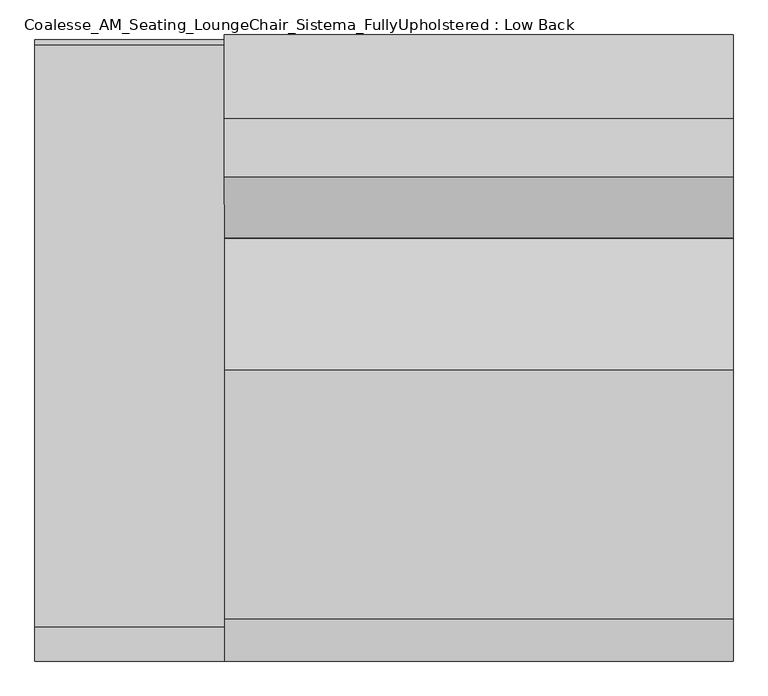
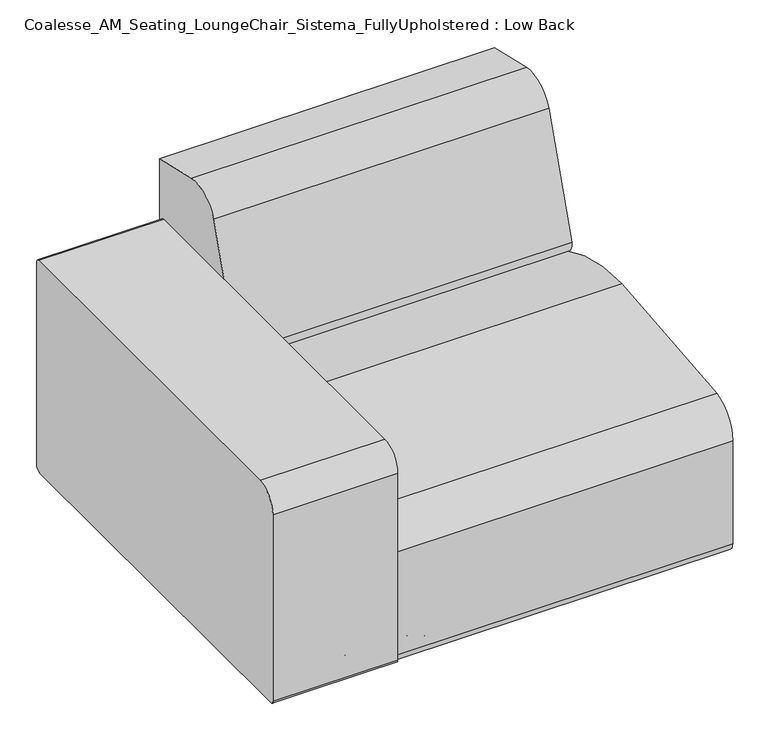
"""IFC4 building model written with IfcOpenShell, lengths in millimetres: furniture geometry, Coalesse_AM_Seating_LoungeChair_Sistema_FullyUpholstered : Low Back."""

from ifc_helpers import new_model, si_unit, point, frame, frame_2d, origin, place, context, project, spatial, polyline, circle_curve, ellipse_curve, trimmed, segment, composite_curve, outline, extrude, source, transform, mapped, element, save
from ifc_brep_helpers import plane_surface, cylinder_surface, revolved_surface, advanced_brep


def coalesse_am_seating_loungechair_sistema_fullyupholstered_low_7b113572(model_context):
    return source(origin(), model_context, "Body", "SolidModel", [
        advanced_brep(
        [(-556.537836, -359.8402281, 16.5557542), (-592.8114456, -359.8402281, 16.5557542), (-592.8114456, -359.8402281, 32.0111214), (-556.537836, -359.8402281, 32.0111214), (-555.2441555, -359.8402281, 14.0167632), (-594.1051261, -359.8402281, 14.0167632), (-550.8721692, -359.8402281, 10.8824382), (-598.4771123, -359.8402281, 10.8824382), (-549.6859529, -359.8402281, 8.4680454), (-599.6633287, -359.8402281, 8.4680454), (-549.6859529, -359.8402281, 3.1081764), (-599.6633287, -359.8402281, 3.1081764), (-553.2823275, -359.8402281, 0.0), (-596.0669541, -359.8402281, 0.0), (-574.6746408, -359.8402281, 0.0), (-567.5598618, -359.8402281, 34.4679682), (-581.7894198, -359.8402281, 34.4679682), (-574.6746408, -359.8402281, 34.4679682), (-567.5598618, -359.8402281, 32.0111214), (-581.7894198, -359.8402281, 32.0111214)],
        [
            (0, 1, circle_curve(frame((-574.6746408, -359.8402281, 16.5557542), z_axis=(0.0, 0.0, 1.0), x_axis=(-1.0, 0.0, 0.0)), 18.1368048)),
            (1, 2),
            (2, 3, circle_curve(frame((-574.6746408, -359.8402281, 32.0111214), z_axis=(0.0, 0.0, -1.0), x_axis=(-1.0, 0.0, 0.0)), 18.1368048)),
            (3, 0),
            (1, 0, circle_curve(frame((-574.6746408, -359.8402281, 16.5557542), z_axis=(0.0, 0.0, 1.0), x_axis=(-1.0, 0.0, 0.0)), 18.1368048)),
            (3, 2, circle_curve(frame((-574.6746408, -359.8402281, 32.0111214), z_axis=(0.0, 0.0, -1.0), x_axis=(-1.0, 0.0, 0.0)), 18.1368048)),
            (4, 5, circle_curve(frame((-574.6746408, -359.8402281, 14.0167632), z_axis=(0.0, 0.0, 1.0), x_axis=(-1.0, 0.0, 0.0)), 19.4304853)),
            (5, 1),
            (0, 4),
            (5, 4, circle_curve(frame((-574.6746408, -359.8402281, 14.0167632), z_axis=(0.0, 0.0, 1.0), x_axis=(-1.0, 0.0, 0.0)), 19.4304853)),
            (6, 7, circle_curve(frame((-574.6746408, -359.8402281, 10.8824382), z_axis=(0.0, 0.0, 1.0), x_axis=(-1.0, 0.0, 0.0)), 23.8024715)),
            (7, 5, circle_curve(frame((-552.1231557, -359.8402281, -49.1591113), z_axis=(0.0, 1.0, 0.0), x_axis=(1.0, 0.0, 0.0)), 75.8529957)),
            (4, 6, circle_curve(frame((-597.2261258, -359.8402281, -49.1591113), z_axis=(0.0, 1.0, 0.0), x_axis=(-1.0, 0.0, 0.0)), 75.8529957)),
            (7, 6, circle_curve(frame((-574.6746408, -359.8402281, 10.8824382), z_axis=(0.0, 0.0, 1.0), x_axis=(-1.0, 0.0, 0.0)), 23.8024715)),
            (8, 9, circle_curve(frame((-574.6746408, -359.8402281, 8.4680454), z_axis=(0.0, 0.0, 1.0), x_axis=(-1.0, 0.0, 0.0)), 24.9886879)),
            (9, 7, circle_curve(frame((-596.6131255, -359.8402281, 8.4680454), z_axis=(0.0, 1.0, 0.0), x_axis=(1.0, 0.0, 0.0)), 3.0502032)),
            (6, 8, circle_curve(frame((-552.7361561, -359.8402281, 8.4680454), z_axis=(0.0, 1.0, 0.0), x_axis=(-1.0, 0.0, 0.0)), 3.0502032)),
            (9, 8, circle_curve(frame((-574.6746408, -359.8402281, 8.4680454), z_axis=(0.0, 0.0, 1.0), x_axis=(-1.0, 0.0, 0.0)), 24.9886879)),
            (10, 11, circle_curve(frame((-574.6746408, -359.8402281, 3.1081764), z_axis=(0.0, 0.0, 1.0), x_axis=(-1.0, 0.0, 0.0)), 24.9886879)),
            (11, 9),
            (8, 10),
            (11, 10, circle_curve(frame((-574.6746408, -359.8402281, 3.1081764), z_axis=(0.0, 0.0, 1.0), x_axis=(-1.0, 0.0, 0.0)), 24.9886879)),
            (12, 13, circle_curve(frame((-574.6746408, -359.8402281, 0.0), z_axis=(0.0, 0.0, 1.0), x_axis=(-1.0, 0.0, 0.0)), 21.3923133)),
            (13, 11, circle_curve(frame((-596.0669541, -359.8402281, 3.634715), z_axis=(0.0, 1.0, 0.0), x_axis=(1.0, 0.0, 0.0)), 3.634715)),
            (10, 12, circle_curve(frame((-553.2823275, -359.8402281, 3.634715), z_axis=(0.0, 1.0, 0.0), x_axis=(-1.0, 0.0, 0.0)), 3.634715)),
            (13, 12, circle_curve(frame((-574.6746408, -359.8402281, 0.0), z_axis=(0.0, 0.0, 1.0), x_axis=(-1.0, 0.0, 0.0)), 21.3923133)),
            (14, 13),
            (12, 14),
            (15, 16, circle_curve(frame((-574.6746408, -359.8402281, 34.4679682), z_axis=(0.0, 0.0, 1.0), x_axis=(-1.0, 0.0, 0.0)), 7.114779)),
            (16, 17),
            (17, 15),
            (16, 15, circle_curve(frame((-574.6746408, -359.8402281, 34.4679682), z_axis=(0.0, 0.0, 1.0), x_axis=(-1.0, 0.0, 0.0)), 7.114779)),
            (18, 19, circle_curve(frame((-574.6746408, -359.8402281, 32.0111214), z_axis=(0.0, 0.0, 1.0), x_axis=(-1.0, 0.0, 0.0)), 7.114779)),
            (19, 16),
            (15, 18),
            (19, 18, circle_curve(frame((-574.6746408, -359.8402281, 32.0111214), z_axis=(0.0, 0.0, 1.0), x_axis=(-1.0, 0.0, 0.0)), 7.114779)),
            (2, 19),
            (18, 3),
        ],
        [
            cylinder_surface(frame((-574.6746408, -359.8402281, 22.0491407), z_axis=(0.0, 0.0, -1.0), x_axis=(-1.0, 0.0, 0.0)), 18.1368048),
            revolved_surface(polyline([(-592.8114456, -359.8402281, 16.5557542), (-594.1051261, -359.8402281, 14.0167632)]), (-574.6746408, -359.8402281, 22.0491407), (0.0, 0.0, -1.0)),
            revolved_surface(trimmed(ellipse_curve(frame((-552.1231557, -359.8402281, -49.1591113), z_axis=(0.0, -1.0, 0.0), x_axis=(1.0, 0.0, 0.0)), 75.8529957, 75.8529957), [point((-594.1051261, -359.8402281, 14.0167632))], [point((-598.4771123, -359.8402281, 10.8824382))], True, "CARTESIAN"), (-574.6746408, -359.8402281, 22.0491407), (0.0, 0.0, -1.0)),
            revolved_surface(trimmed(ellipse_curve(frame((-596.6131255, -359.8402281, 8.4680454), z_axis=(0.0, -1.0, 0.0), x_axis=(1.0, 0.0, 0.0)), 3.0502032, 3.0502032), [point((-598.4771123, -359.8402281, 10.8824382))], [point((-599.6633287, -359.8402281, 8.4680454))], True, "CARTESIAN"), (-574.6746408, -359.8402281, 22.0491407), (0.0, 0.0, -1.0)),
            cylinder_surface(frame((-574.6746408, -359.8402281, 22.0491407), z_axis=(0.0, 0.0, -1.0), x_axis=(-1.0, 0.0, 0.0)), 24.9886879),
            revolved_surface(trimmed(ellipse_curve(frame((-596.0669541, -359.8402281, 3.634715), z_axis=(0.0, -1.0, 0.0), x_axis=(1.0, 0.0, 0.0)), 3.634715, 3.634715), [point((-599.6633287, -359.8402281, 3.1081764))], [point((-596.0669541, -359.8402281, 0.0))], True, "CARTESIAN"), (-574.6746408, -359.8402281, 22.0491407), (0.0, 0.0, -1.0)),
            plane_surface(frame((-574.6746408, -359.8402281, 0.0), z_axis=(0.0, 0.0, -1.0), x_axis=(-1.0, 0.0, 0.0))),
            plane_surface(frame((-574.6746408, -359.8402281, 34.4679682), z_axis=(0.0, 0.0, 1.0), x_axis=(-1.0, 0.0, 0.0))),
            cylinder_surface(frame((-574.6746408, -359.8402281, 22.0491407), z_axis=(0.0, 0.0, -1.0), x_axis=(-1.0, 0.0, 0.0)), 7.114779),
            plane_surface(frame((-574.6746408, -359.8402281, 32.0111214), z_axis=(0.0, 0.0, 1.0), x_axis=(-1.0, 0.0, 0.0))),
        ],
        [
            (0, [[1, 2, 3, 4]]),
            (0, [[5, -4, 6, -2]]),
            (1, [[7, 8, -1, 9]]),
            (1, [[10, -9, -5, -8]]),
            (2, [[11, 12, -7, 13]]),
            (2, [[14, -13, -10, -12]]),
            (3, [[15, 16, -11, 17]]),
            (3, [[18, -17, -14, -16]]),
            (4, [[19, 20, -15, 21]]),
            (4, [[22, -21, -18, -20]]),
            (5, [[23, 24, -19, 25]]),
            (5, [[26, -25, -22, -24]]),
            (6, [[27, -23, 28]]),
            (6, [[-28, -26, -27]]),
            (7, [[29, 30, 31]]),
            (7, [[32, -31, -30]]),
            (8, [[33, 34, -29, 35]]),
            (8, [[36, -35, -32, -34]]),
            (9, [[-3, 37, -33, 38]]),
            (9, [[-6, -38, -36, -37]]),
        ],
    ),
        advanced_brep(
        [(-435.887836, -359.8402281, 16.5557542), (-472.1614456, -359.8402281, 16.5557542), (-472.1614456, -359.8402281, 32.0111214), (-435.887836, -359.8402281, 32.0111214), (-434.5941555, -359.8402281, 14.0167632), (-473.4551261, -359.8402281, 14.0167632), (-430.2221692, -359.8402281, 10.8824382), (-477.8271123, -359.8402281, 10.8824382), (-429.0359529, -359.8402281, 8.4680454), (-479.0133287, -359.8402281, 8.4680454), (-429.0359529, -359.8402281, 3.1081764), (-479.0133287, -359.8402281, 3.1081764), (-432.6323275, -359.8402281, 0.0), (-475.4169541, -359.8402281, 0.0), (-454.0246408, -359.8402281, 0.0), (-446.9098618, -359.8402281, 34.4679682), (-461.1394198, -359.8402281, 34.4679682), (-454.0246408, -359.8402281, 34.4679682), (-446.9098618, -359.8402281, 32.0111214), (-461.1394198, -359.8402281, 32.0111214)],
        [
            (0, 1, circle_curve(frame((-454.0246408, -359.8402281, 16.5557542), z_axis=(0.0, 0.0, 1.0), x_axis=(-1.0, 0.0, 0.0)), 18.1368048)),
            (1, 2),
            (2, 3, circle_curve(frame((-454.0246408, -359.8402281, 32.0111214), z_axis=(0.0, 0.0, -1.0), x_axis=(-1.0, 0.0, 0.0)), 18.1368048)),
            (3, 0),
            (1, 0, circle_curve(frame((-454.0246408, -359.8402281, 16.5557542), z_axis=(0.0, 0.0, 1.0), x_axis=(-1.0, 0.0, 0.0)), 18.1368048)),
            (3, 2, circle_curve(frame((-454.0246408, -359.8402281, 32.0111214), z_axis=(0.0, 0.0, -1.0), x_axis=(-1.0, 0.0, 0.0)), 18.1368048)),
            (4, 5, circle_curve(frame((-454.0246408, -359.8402281, 14.0167632), z_axis=(0.0, 0.0, 1.0), x_axis=(-1.0, 0.0, 0.0)), 19.4304853)),
            (5, 1),
            (0, 4),
            (5, 4, circle_curve(frame((-454.0246408, -359.8402281, 14.0167632), z_axis=(0.0, 0.0, 1.0), x_axis=(-1.0, 0.0, 0.0)), 19.4304853)),
            (6, 7, circle_curve(frame((-454.0246408, -359.8402281, 10.8824382), z_axis=(0.0, 0.0, 1.0), x_axis=(-1.0, 0.0, 0.0)), 23.8024715)),
            (7, 5, circle_curve(frame((-431.4731557, -359.8402281, -49.1591113), z_axis=(0.0, 1.0, 0.0), x_axis=(1.0, 0.0, 0.0)), 75.8529957)),
            (4, 6, circle_curve(frame((-476.5761258, -359.8402281, -49.1591113), z_axis=(0.0, 1.0, 0.0), x_axis=(-1.0, 0.0, 0.0)), 75.8529957)),
            (7, 6, circle_curve(frame((-454.0246408, -359.8402281, 10.8824382), z_axis=(0.0, 0.0, 1.0), x_axis=(-1.0, 0.0, 0.0)), 23.8024715)),
            (8, 9, circle_curve(frame((-454.0246408, -359.8402281, 8.4680454), z_axis=(0.0, 0.0, 1.0), x_axis=(-1.0, 0.0, 0.0)), 24.9886879)),
            (9, 7, circle_curve(frame((-475.9631255, -359.8402281, 8.4680454), z_axis=(0.0, 1.0, 0.0), x_axis=(1.0, 0.0, 0.0)), 3.0502032)),
            (6, 8, circle_curve(frame((-432.0861561, -359.8402281, 8.4680454), z_axis=(0.0, 1.0, 0.0), x_axis=(-1.0, 0.0, 0.0)), 3.0502032)),
            (9, 8, circle_curve(frame((-454.0246408, -359.8402281, 8.4680454), z_axis=(0.0, 0.0, 1.0), x_axis=(-1.0, 0.0, 0.0)), 24.9886879)),
            (10, 11, circle_curve(frame((-454.0246408, -359.8402281, 3.1081764), z_axis=(0.0, 0.0, 1.0), x_axis=(-1.0, 0.0, 0.0)), 24.9886879)),
            (11, 9),
            (8, 10),
            (11, 10, circle_curve(frame((-454.0246408, -359.8402281, 3.1081764), z_axis=(0.0, 0.0, 1.0), x_axis=(-1.0, 0.0, 0.0)), 24.9886879)),
            (12, 13, circle_curve(frame((-454.0246408, -359.8402281, 0.0), z_axis=(0.0, 0.0, 1.0), x_axis=(-1.0, 0.0, 0.0)), 21.3923133)),
            (13, 11, circle_curve(frame((-475.4169541, -359.8402281, 3.634715), z_axis=(0.0, 1.0, 0.0), x_axis=(1.0, 0.0, 0.0)), 3.634715)),
            (10, 12, circle_curve(frame((-432.6323275, -359.8402281, 3.634715), z_axis=(0.0, 1.0, 0.0), x_axis=(-1.0, 0.0, 0.0)), 3.634715)),
            (13, 12, circle_curve(frame((-454.0246408, -359.8402281, 0.0), z_axis=(0.0, 0.0, 1.0), x_axis=(-1.0, 0.0, 0.0)), 21.3923133)),
            (14, 13),
            (12, 14),
            (15, 16, circle_curve(frame((-454.0246408, -359.8402281, 34.4679682), z_axis=(0.0, 0.0, 1.0), x_axis=(-1.0, 0.0, 0.0)), 7.114779)),
            (16, 17),
            (17, 15),
            (16, 15, circle_curve(frame((-454.0246408, -359.8402281, 34.4679682), z_axis=(0.0, 0.0, 1.0), x_axis=(-1.0, 0.0, 0.0)), 7.114779)),
            (18, 19, circle_curve(frame((-454.0246408, -359.8402281, 32.0111214), z_axis=(0.0, 0.0, 1.0), x_axis=(-1.0, 0.0, 0.0)), 7.114779)),
            (19, 16),
            (15, 18),
            (19, 18, circle_curve(frame((-454.0246408, -359.8402281, 32.0111214), z_axis=(0.0, 0.0, 1.0), x_axis=(-1.0, 0.0, 0.0)), 7.114779)),
            (2, 19),
            (18, 3),
        ],
        [
            cylinder_surface(frame((-454.0246408, -359.8402281, 22.0491407), z_axis=(0.0, 0.0, -1.0), x_axis=(-1.0, 0.0, 0.0)), 18.1368048),
            revolved_surface(polyline([(-472.1614456, -359.8402281, 16.5557542), (-473.4551261, -359.8402281, 14.0167632)]), (-454.0246408, -359.8402281, 22.0491407), (0.0, 0.0, -1.0)),
            revolved_surface(trimmed(ellipse_curve(frame((-431.4731557, -359.8402281, -49.1591113), z_axis=(0.0, -1.0, 0.0), x_axis=(1.0, 0.0, 0.0)), 75.8529957, 75.8529957), [point((-473.4551261, -359.8402281, 14.0167632))], [point((-477.8271123, -359.8402281, 10.8824382))], True, "CARTESIAN"), (-454.0246408, -359.8402281, 22.0491407), (0.0, 0.0, -1.0)),
            revolved_surface(trimmed(ellipse_curve(frame((-475.9631255, -359.8402281, 8.4680454), z_axis=(0.0, -1.0, 0.0), x_axis=(1.0, 0.0, 0.0)), 3.0502032, 3.0502032), [point((-477.8271123, -359.8402281, 10.8824382))], [point((-479.0133287, -359.8402281, 8.4680454))], True, "CARTESIAN"), (-454.0246408, -359.8402281, 22.0491407), (0.0, 0.0, -1.0)),
            cylinder_surface(frame((-454.0246408, -359.8402281, 22.0491407), z_axis=(0.0, 0.0, -1.0), x_axis=(-1.0, 0.0, 0.0)), 24.9886879),
            revolved_surface(trimmed(ellipse_curve(frame((-475.4169541, -359.8402281, 3.634715), z_axis=(0.0, -1.0, 0.0), x_axis=(1.0, 0.0, 0.0)), 3.634715, 3.634715), [point((-479.0133287, -359.8402281, 3.1081764))], [point((-475.4169541, -359.8402281, 0.0))], True, "CARTESIAN"), (-454.0246408, -359.8402281, 22.0491407), (0.0, 0.0, -1.0)),
            plane_surface(frame((-454.0246408, -359.8402281, 0.0), z_axis=(0.0, 0.0, -1.0), x_axis=(-1.0, 0.0, 0.0))),
            plane_surface(frame((-454.0246408, -359.8402281, 34.4679682), z_axis=(0.0, 0.0, 1.0), x_axis=(-1.0, 0.0, 0.0))),
            cylinder_surface(frame((-454.0246408, -359.8402281, 22.0491407), z_axis=(0.0, 0.0, -1.0), x_axis=(-1.0, 0.0, 0.0)), 7.114779),
            plane_surface(frame((-454.0246408, -359.8402281, 32.0111214), z_axis=(0.0, 0.0, 1.0), x_axis=(-1.0, 0.0, 0.0))),
        ],
        [
            (0, [[1, 2, 3, 4]]),
            (0, [[5, -4, 6, -2]]),
            (1, [[7, 8, -1, 9]]),
            (1, [[10, -9, -5, -8]]),
            (2, [[11, 12, -7, 13]]),
            (2, [[14, -13, -10, -12]]),
            (3, [[15, 16, -11, 17]]),
            (3, [[18, -17, -14, -16]]),
            (4, [[19, 20, -15, 21]]),
            (4, [[22, -21, -18, -20]]),
            (5, [[23, 24, -19, 25]]),
            (5, [[26, -25, -22, -24]]),
            (6, [[27, -23, 28]]),
            (6, [[-28, -26, -27]]),
            (7, [[29, 30, 31]]),
            (7, [[32, -31, -30]]),
            (8, [[33, 34, -29, 35]]),
            (8, [[36, -35, -32, -34]]),
            (9, [[-3, 37, -33, 38]]),
            (9, [[-6, -38, -36, -37]]),
        ],
    ),
        extrude(outline(composite_curve([segment(polyline([(-461.2704381, 44.1353341), (-461.2704381, 487.0244726)]), True, "CONTINUOUS"), segment(trimmed(circle_curve(frame_2d((-410.4704381, 487.0244726)), 50.8), [point((-461.2704381, 487.0244726))], [point((-410.4704381, 537.8244726))], False, "CARTESIAN"), True, "CONTINUOUS"), segment(polyline([(-410.4704381, 537.8244726), (450.1139321, 537.8244726)]), True, "CONTINUOUS"), segment(trimmed(circle_curve(frame_2d((450.1139321, 530.2044726)), 7.62), [point((450.1139321, 537.8244726))], [point((457.7339321, 530.2044726))], False, "CARTESIAN"), True, "CONTINUOUS"), segment(polyline([(457.7339321, 530.2044726), (457.7339321, 49.2153341)]), True, "CONTINUOUS"), segment(trimmed(circle_curve(frame_2d((445.0339321, 49.2153341)), 12.7), [point((457.7339321, 49.2153341))], [point((445.0339321, 36.5153341))], False, "CARTESIAN"), True, "CONTINUOUS"), segment(polyline([(445.0339321, 36.5153341), (-453.6504381, 36.5153341)]), True, "CONTINUOUS"), segment(trimmed(circle_curve(frame_2d((-453.6504381, 44.1353341)), 7.62), [point((-453.6504381, 36.5153341))], [point((-461.2704381, 44.1353341))], False, "CARTESIAN"), True, "CONTINUOUS")], self_intersect=False)), frame((-655.073773, 0.0, 0.0), z_axis=(1.0, 0.0, 0.0), x_axis=(0.0, 1.0, 0.0)), (0.0, 0.0, 1.0), 280.2702957),
        advanced_brep(
        [(-269.1276038, 379.5141881, 32.0111214), (-305.4012134, 379.5141881, 32.0111214), (-305.4012134, 379.5141881, 16.5557542), (-269.1276038, 379.5141881, 16.5557542), (-306.6948939, 379.5141881, 14.0167632), (-267.8339233, 379.5141881, 14.0167632), (-311.0668802, 379.5141881, 10.8824382), (-263.4619371, 379.5141881, 10.8824382), (-312.2530965, 379.5141881, 8.4680454), (-262.2757207, 379.5141881, 8.4680454), (-312.2530965, 379.5141881, 3.1081764), (-262.2757207, 379.5141881, 3.1081764), (-308.6567219, 379.5141881, 0.0), (-265.8720953, 379.5141881, 0.0), (-287.2644086, 379.5141881, 0.0), (-287.2644086, 379.5141881, 34.4679682), (-294.3791876, 379.5141881, 34.4679682), (-280.1496296, 379.5141881, 34.4679682), (-294.3791876, 379.5141881, 32.0111214), (-280.1496296, 379.5141881, 32.0111214)],
        [
            (0, 1, circle_curve(frame((-287.2644086, 379.5141881, 32.0111214), z_axis=(0.0, 0.0, -1.0), x_axis=(-1.0, 0.0, 0.0)), 18.1368048)),
            (1, 2),
            (2, 3, circle_curve(frame((-287.2644086, 379.5141881, 16.5557542), z_axis=(0.0, 0.0, 1.0), x_axis=(-1.0, 0.0, 0.0)), 18.1368048)),
            (3, 0),
            (1, 0, circle_curve(frame((-287.2644086, 379.5141881, 32.0111214), z_axis=(0.0, 0.0, -1.0), x_axis=(-1.0, 0.0, 0.0)), 18.1368048)),
            (3, 2, circle_curve(frame((-287.2644086, 379.5141881, 16.5557542), z_axis=(0.0, 0.0, 1.0), x_axis=(-1.0, 0.0, 0.0)), 18.1368048)),
            (2, 4),
            (4, 5, circle_curve(frame((-287.2644086, 379.5141881, 14.0167632), z_axis=(0.0, 0.0, 1.0), x_axis=(-1.0, 0.0, 0.0)), 19.4304853)),
            (5, 3),
            (5, 4, circle_curve(frame((-287.2644086, 379.5141881, 14.0167632), z_axis=(0.0, 0.0, 1.0), x_axis=(-1.0, 0.0, 0.0)), 19.4304853)),
            (4, 6, circle_curve(frame((-264.7129236, 379.5141881, -49.1591113), z_axis=(0.0, -1.0, 0.0), x_axis=(1.0, 0.0, 0.0)), 75.8529957)),
            (6, 7, circle_curve(frame((-287.2644086, 379.5141881, 10.8824382), z_axis=(0.0, 0.0, 1.0), x_axis=(-1.0, 0.0, 0.0)), 23.8024715)),
            (7, 5, circle_curve(frame((-309.8158936, 379.5141881, -49.1591113), z_axis=(0.0, -1.0, 0.0), x_axis=(-1.0, 0.0, 0.0)), 75.8529957)),
            (7, 6, circle_curve(frame((-287.2644086, 379.5141881, 10.8824382), z_axis=(0.0, 0.0, 1.0), x_axis=(-1.0, 0.0, 0.0)), 23.8024715)),
            (6, 8, circle_curve(frame((-309.2028933, 379.5141881, 8.4680454), z_axis=(0.0, -1.0, 0.0), x_axis=(1.0, 0.0, 0.0)), 3.0502032)),
            (8, 9, circle_curve(frame((-287.2644086, 379.5141881, 8.4680454), z_axis=(0.0, 0.0, 1.0), x_axis=(-1.0, 0.0, 0.0)), 24.9886879)),
            (9, 7, circle_curve(frame((-265.3259239, 379.5141881, 8.4680454), z_axis=(0.0, -1.0, 0.0), x_axis=(-1.0, 0.0, 0.0)), 3.0502032)),
            (9, 8, circle_curve(frame((-287.2644086, 379.5141881, 8.4680454), z_axis=(0.0, 0.0, 1.0), x_axis=(-1.0, 0.0, 0.0)), 24.9886879)),
            (8, 10),
            (10, 11, circle_curve(frame((-287.2644086, 379.5141881, 3.1081764), z_axis=(0.0, 0.0, 1.0), x_axis=(-1.0, 0.0, 0.0)), 24.9886879)),
            (11, 9),
            (11, 10, circle_curve(frame((-287.2644086, 379.5141881, 3.1081764), z_axis=(0.0, 0.0, 1.0), x_axis=(-1.0, 0.0, 0.0)), 24.9886879)),
            (10, 12, circle_curve(frame((-308.6567219, 379.5141881, 3.634715), z_axis=(0.0, -1.0, 0.0), x_axis=(1.0, 0.0, 0.0)), 3.634715)),
            (12, 13, circle_curve(frame((-287.2644086, 379.5141881, 0.0), z_axis=(0.0, 0.0, 1.0), x_axis=(-1.0, 0.0, 0.0)), 21.3923133)),
            (13, 11, circle_curve(frame((-265.8720953, 379.5141881, 3.634715), z_axis=(0.0, -1.0, 0.0), x_axis=(-1.0, 0.0, 0.0)), 3.634715)),
            (13, 12, circle_curve(frame((-287.2644086, 379.5141881, 0.0), z_axis=(0.0, 0.0, 1.0), x_axis=(-1.0, 0.0, 0.0)), 21.3923133)),
            (12, 14),
            (14, 13),
            (15, 16),
            (16, 17, circle_curve(frame((-287.2644086, 379.5141881, 34.4679682), z_axis=(0.0, 0.0, 1.0), x_axis=(-1.0, 0.0, 0.0)), 7.114779)),
            (17, 15),
            (17, 16, circle_curve(frame((-287.2644086, 379.5141881, 34.4679682), z_axis=(0.0, 0.0, 1.0), x_axis=(-1.0, 0.0, 0.0)), 7.114779)),
            (16, 18),
            (18, 19, circle_curve(frame((-287.2644086, 379.5141881, 32.0111214), z_axis=(0.0, 0.0, 1.0), x_axis=(-1.0, 0.0, 0.0)), 7.114779)),
            (19, 17),
            (19, 18, circle_curve(frame((-287.2644086, 379.5141881, 32.0111214), z_axis=(0.0, 0.0, 1.0), x_axis=(-1.0, 0.0, 0.0)), 7.114779)),
            (18, 1),
            (0, 19),
        ],
        [
            cylinder_surface(frame((-287.2644086, 379.5141881, 22.0491407), z_axis=(0.0, 0.0, 1.0), x_axis=(-1.0, 0.0, 0.0)), 18.1368048),
            revolved_surface(polyline([(-306.6948939, 379.5141881, 14.0167632), (-305.4012134, 379.5141881, 16.5557542)]), (-287.2644086, 379.5141881, 22.0491407), (0.0, 0.0, 1.0)),
            revolved_surface(trimmed(ellipse_curve(frame((-264.7129236, 379.5141881, -49.1591113), z_axis=(0.0, 1.0, 0.0), x_axis=(1.0, 0.0, 0.0)), 75.8529957, 75.8529957), [point((-311.0668802, 379.5141881, 10.8824382))], [point((-306.6948939, 379.5141881, 14.0167632))], True, "CARTESIAN"), (-287.2644086, 379.5141881, 22.0491407), (0.0, 0.0, 1.0)),
            revolved_surface(trimmed(ellipse_curve(frame((-309.2028933, 379.5141881, 8.4680454), z_axis=(0.0, 1.0, 0.0), x_axis=(1.0, 0.0, 0.0)), 3.0502032, 3.0502032), [point((-312.2530965, 379.5141881, 8.4680454))], [point((-311.0668802, 379.5141881, 10.8824382))], True, "CARTESIAN"), (-287.2644086, 379.5141881, 22.0491407), (0.0, 0.0, 1.0)),
            cylinder_surface(frame((-287.2644086, 379.5141881, 22.0491407), z_axis=(0.0, 0.0, 1.0), x_axis=(-1.0, 0.0, 0.0)), 24.9886879),
            revolved_surface(trimmed(ellipse_curve(frame((-308.6567219, 379.5141881, 3.634715), z_axis=(0.0, 1.0, 0.0), x_axis=(1.0, 0.0, 0.0)), 3.634715, 3.634715), [point((-308.6567219, 379.5141881, 0.0))], [point((-312.2530965, 379.5141881, 3.1081764))], True, "CARTESIAN"), (-287.2644086, 379.5141881, 22.0491407), (0.0, 0.0, 1.0)),
            plane_surface(frame((-287.2644086, 379.5141881, 0.0), z_axis=(0.0, 0.0, -1.0), x_axis=(-1.0, 0.0, 0.0))),
            plane_surface(frame((-287.2644086, 379.5141881, 34.4679682), z_axis=(0.0, 0.0, 1.0), x_axis=(-1.0, 0.0, 0.0))),
            cylinder_surface(frame((-287.2644086, 379.5141881, 22.0491407), z_axis=(0.0, 0.0, 1.0), x_axis=(-1.0, 0.0, 0.0)), 7.114779),
            plane_surface(frame((-287.2644086, 379.5141881, 32.0111214), z_axis=(0.0, 0.0, 1.0), x_axis=(-1.0, 0.0, 0.0))),
        ],
        [
            (0, [[1, 2, 3, 4]]),
            (0, [[5, -4, 6, -2]]),
            (1, [[-3, 7, 8, 9]]),
            (1, [[-6, -9, 10, -7]]),
            (2, [[-8, 11, 12, 13]]),
            (2, [[-10, -13, 14, -11]]),
            (3, [[-12, 15, 16, 17]]),
            (3, [[-14, -17, 18, -15]]),
            (4, [[-16, 19, 20, 21]]),
            (4, [[-18, -21, 22, -19]]),
            (5, [[-20, 23, 24, 25]]),
            (5, [[-22, -25, 26, -23]]),
            (6, [[-24, 27, 28]]),
            (6, [[-26, -28, -27]]),
            (7, [[29, 30, 31]]),
            (7, [[-31, 32, -29]]),
            (8, [[-30, 33, 34, 35]]),
            (8, [[-32, -35, 36, -33]]),
            (9, [[-34, 37, -1, 38]]),
            (9, [[-36, -38, -5, -37]]),
        ],
    ),
        advanced_brep(
        [(269.1276038, 379.5141881, 16.5557542), (305.4012134, 379.5141881, 16.5557542), (305.4012134, 379.5141881, 32.0111214), (269.1276038, 379.5141881, 32.0111214), (267.8339233, 379.5141881, 14.0167632), (306.6948939, 379.5141881, 14.0167632), (263.4619371, 379.5141881, 10.8824382), (311.0668802, 379.5141881, 10.8824382), (262.2757207, 379.5141881, 8.4680454), (312.2530965, 379.5141881, 8.4680454), (262.2757207, 379.5141881, 3.1081764), (312.2530965, 379.5141881, 3.1081764), (265.8720953, 379.5141881, 0.0), (308.6567219, 379.5141881, 0.0), (287.2644086, 379.5141881, 0.0), (280.1496296, 379.5141881, 34.4679682), (294.3791876, 379.5141881, 34.4679682), (287.2644086, 379.5141881, 34.4679682), (280.1496296, 379.5141881, 32.0111214), (294.3791876, 379.5141881, 32.0111214)],
        [
            (0, 1, circle_curve(frame((287.2644086, 379.5141881, 16.5557542), z_axis=(0.0, 0.0, 1.0), x_axis=(1.0, 0.0, 0.0)), 18.1368048)),
            (1, 2),
            (2, 3, circle_curve(frame((287.2644086, 379.5141881, 32.0111214), z_axis=(0.0, 0.0, -1.0), x_axis=(1.0, 0.0, 0.0)), 18.1368048)),
            (3, 0),
            (1, 0, circle_curve(frame((287.2644086, 379.5141881, 16.5557542), z_axis=(0.0, 0.0, 1.0), x_axis=(1.0, 0.0, 0.0)), 18.1368048)),
            (3, 2, circle_curve(frame((287.2644086, 379.5141881, 32.0111214), z_axis=(0.0, 0.0, -1.0), x_axis=(1.0, 0.0, 0.0)), 18.1368048)),
            (4, 5, circle_curve(frame((287.2644086, 379.5141881, 14.0167632), z_axis=(0.0, 0.0, 1.0), x_axis=(1.0, 0.0, 0.0)), 19.4304853)),
            (5, 1),
            (0, 4),
            (5, 4, circle_curve(frame((287.2644086, 379.5141881, 14.0167632), z_axis=(0.0, 0.0, 1.0), x_axis=(1.0, 0.0, 0.0)), 19.4304853)),
            (6, 7, circle_curve(frame((287.2644086, 379.5141881, 10.8824382), z_axis=(0.0, 0.0, 1.0), x_axis=(1.0, 0.0, 0.0)), 23.8024715)),
            (7, 5, circle_curve(frame((264.7129236, 379.5141881, -49.1591113), z_axis=(0.0, -1.0, 0.0), x_axis=(-1.0, 0.0, 0.0)), 75.8529957)),
            (4, 6, circle_curve(frame((309.8158936, 379.5141881, -49.1591113), z_axis=(0.0, -1.0, 0.0), x_axis=(1.0, 0.0, 0.0)), 75.8529957)),
            (7, 6, circle_curve(frame((287.2644086, 379.5141881, 10.8824382), z_axis=(0.0, 0.0, 1.0), x_axis=(1.0, 0.0, 0.0)), 23.8024715)),
            (8, 9, circle_curve(frame((287.2644086, 379.5141881, 8.4680454), z_axis=(0.0, 0.0, 1.0), x_axis=(1.0, 0.0, 0.0)), 24.9886879)),
            (9, 7, circle_curve(frame((309.2028933, 379.5141881, 8.4680454), z_axis=(0.0, -1.0, 0.0), x_axis=(-1.0, 0.0, 0.0)), 3.0502032)),
            (6, 8, circle_curve(frame((265.3259239, 379.5141881, 8.4680454), z_axis=(0.0, -1.0, 0.0), x_axis=(1.0, 0.0, 0.0)), 3.0502032)),
            (9, 8, circle_curve(frame((287.2644086, 379.5141881, 8.4680454), z_axis=(0.0, 0.0, 1.0), x_axis=(1.0, 0.0, 0.0)), 24.9886879)),
            (10, 11, circle_curve(frame((287.2644086, 379.5141881, 3.1081764), z_axis=(0.0, 0.0, 1.0), x_axis=(1.0, 0.0, 0.0)), 24.9886879)),
            (11, 9),
            (8, 10),
            (11, 10, circle_curve(frame((287.2644086, 379.5141881, 3.1081764), z_axis=(0.0, 0.0, 1.0), x_axis=(1.0, 0.0, 0.0)), 24.9886879)),
            (12, 13, circle_curve(frame((287.2644086, 379.5141881, 0.0), z_axis=(0.0, 0.0, 1.0), x_axis=(1.0, 0.0, 0.0)), 21.3923133)),
            (13, 11, circle_curve(frame((308.6567219, 379.5141881, 3.634715), z_axis=(0.0, -1.0, 0.0), x_axis=(-1.0, 0.0, 0.0)), 3.634715)),
            (10, 12, circle_curve(frame((265.8720953, 379.5141881, 3.634715), z_axis=(0.0, -1.0, 0.0), x_axis=(1.0, 0.0, 0.0)), 3.634715)),
            (13, 12, circle_curve(frame((287.2644086, 379.5141881, 0.0), z_axis=(0.0, 0.0, 1.0), x_axis=(1.0, 0.0, 0.0)), 21.3923133)),
            (14, 13),
            (12, 14),
            (15, 16, circle_curve(frame((287.2644086, 379.5141881, 34.4679682), z_axis=(0.0, 0.0, 1.0), x_axis=(1.0, 0.0, 0.0)), 7.114779)),
            (16, 17),
            (17, 15),
            (16, 15, circle_curve(frame((287.2644086, 379.5141881, 34.4679682), z_axis=(0.0, 0.0, 1.0), x_axis=(1.0, 0.0, 0.0)), 7.114779)),
            (18, 19, circle_curve(frame((287.2644086, 379.5141881, 32.0111214), z_axis=(0.0, 0.0, 1.0), x_axis=(1.0, 0.0, 0.0)), 7.114779)),
            (19, 16),
            (15, 18),
            (19, 18, circle_curve(frame((287.2644086, 379.5141881, 32.0111214), z_axis=(0.0, 0.0, 1.0), x_axis=(1.0, 0.0, 0.0)), 7.114779)),
            (2, 19),
            (18, 3),
        ],
        [
            cylinder_surface(frame((287.2644086, 379.5141881, 22.0491407), z_axis=(0.0, 0.0, -1.0), x_axis=(1.0, 0.0, 0.0)), 18.1368048),
            revolved_surface(polyline([(305.4012134, 379.5141881, 16.5557542), (306.6948939, 379.5141881, 14.0167632)]), (287.2644086, 379.5141881, 22.0491407), (0.0, 0.0, -1.0)),
            revolved_surface(trimmed(ellipse_curve(frame((264.7129236, 379.5141881, -49.1591113), z_axis=(0.0, 1.0, 0.0), x_axis=(-1.0, 0.0, 0.0)), 75.8529957, 75.8529957), [point((306.6948939, 379.5141881, 14.0167632))], [point((311.0668802, 379.5141881, 10.8824382))], True, "CARTESIAN"), (287.2644086, 379.5141881, 22.0491407), (0.0, 0.0, -1.0)),
            revolved_surface(trimmed(ellipse_curve(frame((309.2028933, 379.5141881, 8.4680454), z_axis=(0.0, 1.0, 0.0), x_axis=(-1.0, 0.0, 0.0)), 3.0502032, 3.0502032), [point((311.0668802, 379.5141881, 10.8824382))], [point((312.2530965, 379.5141881, 8.4680454))], True, "CARTESIAN"), (287.2644086, 379.5141881, 22.0491407), (0.0, 0.0, -1.0)),
            cylinder_surface(frame((287.2644086, 379.5141881, 22.0491407), z_axis=(0.0, 0.0, -1.0), x_axis=(1.0, 0.0, 0.0)), 24.9886879),
            revolved_surface(trimmed(ellipse_curve(frame((308.6567219, 379.5141881, 3.634715), z_axis=(0.0, 1.0, 0.0), x_axis=(-1.0, 0.0, 0.0)), 3.634715, 3.634715), [point((312.2530965, 379.5141881, 3.1081764))], [point((308.6567219, 379.5141881, 0.0))], True, "CARTESIAN"), (287.2644086, 379.5141881, 22.0491407), (0.0, 0.0, -1.0)),
            plane_surface(frame((287.2644086, 379.5141881, 0.0), z_axis=(0.0, 0.0, -1.0), x_axis=(1.0, 0.0, 0.0))),
            plane_surface(frame((287.2644086, 379.5141881, 34.4679682), z_axis=(0.0, 0.0, 1.0), x_axis=(1.0, 0.0, 0.0))),
            cylinder_surface(frame((287.2644086, 379.5141881, 22.0491407), z_axis=(0.0, 0.0, -1.0), x_axis=(1.0, 0.0, 0.0)), 7.114779),
            plane_surface(frame((287.2644086, 379.5141881, 32.0111214), z_axis=(0.0, 0.0, 1.0), x_axis=(1.0, 0.0, 0.0))),
        ],
        [
            (0, [[1, 2, 3, 4]]),
            (0, [[5, -4, 6, -2]]),
            (1, [[7, 8, -1, 9]]),
            (1, [[10, -9, -5, -8]]),
            (2, [[11, 12, -7, 13]]),
            (2, [[14, -13, -10, -12]]),
            (3, [[15, 16, -11, 17]]),
            (3, [[18, -17, -14, -16]]),
            (4, [[19, 20, -15, 21]]),
            (4, [[22, -21, -18, -20]]),
            (5, [[23, 24, -19, 25]]),
            (5, [[26, -25, -22, -24]]),
            (6, [[27, -23, 28]]),
            (6, [[-28, -26, -27]]),
            (7, [[29, 30, 31]]),
            (7, [[32, -31, -30]]),
            (8, [[33, 34, -29, 35]]),
            (8, [[36, -35, -32, -34]]),
            (9, [[-3, 37, -33, 38]]),
            (9, [[-6, -38, -36, -37]]),
        ],
    ),
        advanced_brep(
        [(269.1276038, -379.5141881, 32.0111214), (305.4012134, -379.5141881, 32.0111214), (305.4012134, -379.5141881, 16.5557542), (269.1276038, -379.5141881, 16.5557542), (306.6948939, -379.5141881, 14.0167632), (267.8339233, -379.5141881, 14.0167632), (311.0668802, -379.5141881, 10.8824382), (263.4619371, -379.5141881, 10.8824382), (312.2530965, -379.5141881, 8.4680454), (262.2757207, -379.5141881, 8.4680454), (312.2530965, -379.5141881, 3.1081764), (262.2757207, -379.5141881, 3.1081764), (308.6567219, -379.5141881, 0.0), (265.8720953, -379.5141881, 0.0), (287.2644086, -379.5141881, 0.0), (287.2644086, -379.5141881, 34.4679682), (294.3791876, -379.5141881, 34.4679682), (280.1496296, -379.5141881, 34.4679682), (294.3791876, -379.5141881, 32.0111214), (280.1496296, -379.5141881, 32.0111214)],
        [
            (0, 1, circle_curve(frame((287.2644086, -379.5141881, 32.0111214), z_axis=(0.0, 0.0, -1.0), x_axis=(1.0, 0.0, 0.0)), 18.1368048)),
            (1, 2),
            (2, 3, circle_curve(frame((287.2644086, -379.5141881, 16.5557542), z_axis=(0.0, 0.0, 1.0), x_axis=(1.0, 0.0, 0.0)), 18.1368048)),
            (3, 0),
            (1, 0, circle_curve(frame((287.2644086, -379.5141881, 32.0111214), z_axis=(0.0, 0.0, -1.0), x_axis=(1.0, 0.0, 0.0)), 18.1368048)),
            (3, 2, circle_curve(frame((287.2644086, -379.5141881, 16.5557542), z_axis=(0.0, 0.0, 1.0), x_axis=(1.0, 0.0, 0.0)), 18.1368048)),
            (2, 4),
            (4, 5, circle_curve(frame((287.2644086, -379.5141881, 14.0167632), z_axis=(0.0, 0.0, 1.0), x_axis=(1.0, 0.0, 0.0)), 19.4304853)),
            (5, 3),
            (5, 4, circle_curve(frame((287.2644086, -379.5141881, 14.0167632), z_axis=(0.0, 0.0, 1.0), x_axis=(1.0, 0.0, 0.0)), 19.4304853)),
            (4, 6, circle_curve(frame((264.7129236, -379.5141881, -49.1591113), z_axis=(0.0, 1.0, 0.0), x_axis=(-1.0, 0.0, 0.0)), 75.8529957)),
            (6, 7, circle_curve(frame((287.2644086, -379.5141881, 10.8824382), z_axis=(0.0, 0.0, 1.0), x_axis=(1.0, 0.0, 0.0)), 23.8024715)),
            (7, 5, circle_curve(frame((309.8158936, -379.5141881, -49.1591113), z_axis=(0.0, 1.0, 0.0), x_axis=(1.0, 0.0, 0.0)), 75.8529957)),
            (7, 6, circle_curve(frame((287.2644086, -379.5141881, 10.8824382), z_axis=(0.0, 0.0, 1.0), x_axis=(1.0, 0.0, 0.0)), 23.8024715)),
            (6, 8, circle_curve(frame((309.2028933, -379.5141881, 8.4680454), z_axis=(0.0, 1.0, 0.0), x_axis=(-1.0, 0.0, 0.0)), 3.0502032)),
            (8, 9, circle_curve(frame((287.2644086, -379.5141881, 8.4680454), z_axis=(0.0, 0.0, 1.0), x_axis=(1.0, 0.0, 0.0)), 24.9886879)),
            (9, 7, circle_curve(frame((265.3259239, -379.5141881, 8.4680454), z_axis=(0.0, 1.0, 0.0), x_axis=(1.0, 0.0, 0.0)), 3.0502032)),
            (9, 8, circle_curve(frame((287.2644086, -379.5141881, 8.4680454), z_axis=(0.0, 0.0, 1.0), x_axis=(1.0, 0.0, 0.0)), 24.9886879)),
            (8, 10),
            (10, 11, circle_curve(frame((287.2644086, -379.5141881, 3.1081764), z_axis=(0.0, 0.0, 1.0), x_axis=(1.0, 0.0, 0.0)), 24.9886879)),
            (11, 9),
            (11, 10, circle_curve(frame((287.2644086, -379.5141881, 3.1081764), z_axis=(0.0, 0.0, 1.0), x_axis=(1.0, 0.0, 0.0)), 24.9886879)),
            (10, 12, circle_curve(frame((308.6567219, -379.5141881, 3.634715), z_axis=(0.0, 1.0, 0.0), x_axis=(-1.0, 0.0, 0.0)), 3.634715)),
            (12, 13, circle_curve(frame((287.2644086, -379.5141881, 0.0), z_axis=(0.0, 0.0, 1.0), x_axis=(1.0, 0.0, 0.0)), 21.3923133)),
            (13, 11, circle_curve(frame((265.8720953, -379.5141881, 3.634715), z_axis=(0.0, 1.0, 0.0), x_axis=(1.0, 0.0, 0.0)), 3.634715)),
            (13, 12, circle_curve(frame((287.2644086, -379.5141881, 0.0), z_axis=(0.0, 0.0, 1.0), x_axis=(1.0, 0.0, 0.0)), 21.3923133)),
            (12, 14),
            (14, 13),
            (15, 16),
            (16, 17, circle_curve(frame((287.2644086, -379.5141881, 34.4679682), z_axis=(0.0, 0.0, 1.0), x_axis=(1.0, 0.0, 0.0)), 7.114779)),
            (17, 15),
            (17, 16, circle_curve(frame((287.2644086, -379.5141881, 34.4679682), z_axis=(0.0, 0.0, 1.0), x_axis=(1.0, 0.0, 0.0)), 7.114779)),
            (16, 18),
            (18, 19, circle_curve(frame((287.2644086, -379.5141881, 32.0111214), z_axis=(0.0, 0.0, 1.0), x_axis=(1.0, 0.0, 0.0)), 7.114779)),
            (19, 17),
            (19, 18, circle_curve(frame((287.2644086, -379.5141881, 32.0111214), z_axis=(0.0, 0.0, 1.0), x_axis=(1.0, 0.0, 0.0)), 7.114779)),
            (18, 1),
            (0, 19),
        ],
        [
            cylinder_surface(frame((287.2644086, -379.5141881, 22.0491407), z_axis=(0.0, 0.0, 1.0), x_axis=(1.0, 0.0, 0.0)), 18.1368048),
            revolved_surface(polyline([(306.6948939, -379.5141881, 14.0167632), (305.4012134, -379.5141881, 16.5557542)]), (287.2644086, -379.5141881, 22.0491407), (0.0, 0.0, 1.0)),
            revolved_surface(trimmed(ellipse_curve(frame((264.7129236, -379.5141881, -49.1591113), z_axis=(0.0, -1.0, 0.0), x_axis=(-1.0, 0.0, 0.0)), 75.8529957, 75.8529957), [point((311.0668802, -379.5141881, 10.8824382))], [point((306.6948939, -379.5141881, 14.0167632))], True, "CARTESIAN"), (287.2644086, -379.5141881, 22.0491407), (0.0, 0.0, 1.0)),
            revolved_surface(trimmed(ellipse_curve(frame((309.2028933, -379.5141881, 8.4680454), z_axis=(0.0, -1.0, 0.0), x_axis=(-1.0, 0.0, 0.0)), 3.0502032, 3.0502032), [point((312.2530965, -379.5141881, 8.4680454))], [point((311.0668802, -379.5141881, 10.8824382))], True, "CARTESIAN"), (287.2644086, -379.5141881, 22.0491407), (0.0, 0.0, 1.0)),
            cylinder_surface(frame((287.2644086, -379.5141881, 22.0491407), z_axis=(0.0, 0.0, 1.0), x_axis=(1.0, 0.0, 0.0)), 24.9886879),
            revolved_surface(trimmed(ellipse_curve(frame((308.6567219, -379.5141881, 3.634715), z_axis=(0.0, -1.0, 0.0), x_axis=(-1.0, 0.0, 0.0)), 3.634715, 3.634715), [point((308.6567219, -379.5141881, 0.0))], [point((312.2530965, -379.5141881, 3.1081764))], True, "CARTESIAN"), (287.2644086, -379.5141881, 22.0491407), (0.0, 0.0, 1.0)),
            plane_surface(frame((287.2644086, -379.5141881, 0.0), z_axis=(0.0, 0.0, -1.0), x_axis=(1.0, 0.0, 0.0))),
            plane_surface(frame((287.2644086, -379.5141881, 34.4679682), z_axis=(0.0, 0.0, 1.0), x_axis=(1.0, 0.0, 0.0))),
            cylinder_surface(frame((287.2644086, -379.5141881, 22.0491407), z_axis=(0.0, 0.0, 1.0), x_axis=(1.0, 0.0, 0.0)), 7.114779),
            plane_surface(frame((287.2644086, -379.5141881, 32.0111214), z_axis=(0.0, 0.0, 1.0), x_axis=(1.0, 0.0, 0.0))),
        ],
        [
            (0, [[1, 2, 3, 4]]),
            (0, [[5, -4, 6, -2]]),
            (1, [[-3, 7, 8, 9]]),
            (1, [[-6, -9, 10, -7]]),
            (2, [[-8, 11, 12, 13]]),
            (2, [[-10, -13, 14, -11]]),
            (3, [[-12, 15, 16, 17]]),
            (3, [[-14, -17, 18, -15]]),
            (4, [[-16, 19, 20, 21]]),
            (4, [[-18, -21, 22, -19]]),
            (5, [[-20, 23, 24, 25]]),
            (5, [[-22, -25, 26, -23]]),
            (6, [[-24, 27, 28]]),
            (6, [[-26, -28, -27]]),
            (7, [[29, 30, 31]]),
            (7, [[-31, 32, -29]]),
            (8, [[-30, 33, 34, 35]]),
            (8, [[-32, -35, 36, -33]]),
            (9, [[-34, 37, -1, 38]]),
            (9, [[-36, -38, -5, -37]]),
        ],
    ),
        advanced_brep(
        [(-269.1276038, -379.5141881, 16.5557542), (-305.4012134, -379.5141881, 16.5557542), (-305.4012134, -379.5141881, 32.0111214), (-269.1276038, -379.5141881, 32.0111214), (-267.8339233, -379.5141881, 14.0167632), (-306.6948939, -379.5141881, 14.0167632), (-263.4619371, -379.5141881, 10.8824382), (-311.0668802, -379.5141881, 10.8824382), (-262.2757207, -379.5141881, 8.4680454), (-312.2530965, -379.5141881, 8.4680454), (-262.2757207, -379.5141881, 3.1081764), (-312.2530965, -379.5141881, 3.1081764), (-265.8720953, -379.5141881, 0.0), (-308.6567219, -379.5141881, 0.0), (-287.2644086, -379.5141881, 0.0), (-280.1496296, -379.5141881, 34.4679682), (-294.3791876, -379.5141881, 34.4679682), (-287.2644086, -379.5141881, 34.4679682), (-280.1496296, -379.5141881, 32.0111214), (-294.3791876, -379.5141881, 32.0111214)],
        [
            (0, 1, circle_curve(frame((-287.2644086, -379.5141881, 16.5557542), z_axis=(0.0, 0.0, 1.0), x_axis=(-1.0, 0.0, 0.0)), 18.1368048)),
            (1, 2),
            (2, 3, circle_curve(frame((-287.2644086, -379.5141881, 32.0111214), z_axis=(0.0, 0.0, -1.0), x_axis=(-1.0, 0.0, 0.0)), 18.1368048)),
            (3, 0),
            (1, 0, circle_curve(frame((-287.2644086, -379.5141881, 16.5557542), z_axis=(0.0, 0.0, 1.0), x_axis=(-1.0, 0.0, 0.0)), 18.1368048)),
            (3, 2, circle_curve(frame((-287.2644086, -379.5141881, 32.0111214), z_axis=(0.0, 0.0, -1.0), x_axis=(-1.0, 0.0, 0.0)), 18.1368048)),
            (4, 5, circle_curve(frame((-287.2644086, -379.5141881, 14.0167632), z_axis=(0.0, 0.0, 1.0), x_axis=(-1.0, 0.0, 0.0)), 19.4304853)),
            (5, 1),
            (0, 4),
            (5, 4, circle_curve(frame((-287.2644086, -379.5141881, 14.0167632), z_axis=(0.0, 0.0, 1.0), x_axis=(-1.0, 0.0, 0.0)), 19.4304853)),
            (6, 7, circle_curve(frame((-287.2644086, -379.5141881, 10.8824382), z_axis=(0.0, 0.0, 1.0), x_axis=(-1.0, 0.0, 0.0)), 23.8024715)),
            (7, 5, circle_curve(frame((-264.7129236, -379.5141881, -49.1591113), z_axis=(0.0, 1.0, 0.0), x_axis=(1.0, 0.0, 0.0)), 75.8529957)),
            (4, 6, circle_curve(frame((-309.8158936, -379.5141881, -49.1591113), z_axis=(0.0, 1.0, 0.0), x_axis=(-1.0, 0.0, 0.0)), 75.8529957)),
            (7, 6, circle_curve(frame((-287.2644086, -379.5141881, 10.8824382), z_axis=(0.0, 0.0, 1.0), x_axis=(-1.0, 0.0, 0.0)), 23.8024715)),
            (8, 9, circle_curve(frame((-287.2644086, -379.5141881, 8.4680454), z_axis=(0.0, 0.0, 1.0), x_axis=(-1.0, 0.0, 0.0)), 24.9886879)),
            (9, 7, circle_curve(frame((-309.2028933, -379.5141881, 8.4680454), z_axis=(0.0, 1.0, 0.0), x_axis=(1.0, 0.0, 0.0)), 3.0502032)),
            (6, 8, circle_curve(frame((-265.3259239, -379.5141881, 8.4680454), z_axis=(0.0, 1.0, 0.0), x_axis=(-1.0, 0.0, 0.0)), 3.0502032)),
            (9, 8, circle_curve(frame((-287.2644086, -379.5141881, 8.4680454), z_axis=(0.0, 0.0, 1.0), x_axis=(-1.0, 0.0, 0.0)), 24.9886879)),
            (10, 11, circle_curve(frame((-287.2644086, -379.5141881, 3.1081764), z_axis=(0.0, 0.0, 1.0), x_axis=(-1.0, 0.0, 0.0)), 24.9886879)),
            (11, 9),
            (8, 10),
            (11, 10, circle_curve(frame((-287.2644086, -379.5141881, 3.1081764), z_axis=(0.0, 0.0, 1.0), x_axis=(-1.0, 0.0, 0.0)), 24.9886879)),
            (12, 13, circle_curve(frame((-287.2644086, -379.5141881, 0.0), z_axis=(0.0, 0.0, 1.0), x_axis=(-1.0, 0.0, 0.0)), 21.3923133)),
            (13, 11, circle_curve(frame((-308.6567219, -379.5141881, 3.634715), z_axis=(0.0, 1.0, 0.0), x_axis=(1.0, 0.0, 0.0)), 3.634715)),
            (10, 12, circle_curve(frame((-265.8720953, -379.5141881, 3.634715), z_axis=(0.0, 1.0, 0.0), x_axis=(-1.0, 0.0, 0.0)), 3.634715)),
            (13, 12, circle_curve(frame((-287.2644086, -379.5141881, 0.0), z_axis=(0.0, 0.0, 1.0), x_axis=(-1.0, 0.0, 0.0)), 21.3923133)),
            (14, 13),
            (12, 14),
            (15, 16, circle_curve(frame((-287.2644086, -379.5141881, 34.4679682), z_axis=(0.0, 0.0, 1.0), x_axis=(-1.0, 0.0, 0.0)), 7.114779)),
            (16, 17),
            (17, 15),
            (16, 15, circle_curve(frame((-287.2644086, -379.5141881, 34.4679682), z_axis=(0.0, 0.0, 1.0), x_axis=(-1.0, 0.0, 0.0)), 7.114779)),
            (18, 19, circle_curve(frame((-287.2644086, -379.5141881, 32.0111214), z_axis=(0.0, 0.0, 1.0), x_axis=(-1.0, 0.0, 0.0)), 7.114779)),
            (19, 16),
            (15, 18),
            (19, 18, circle_curve(frame((-287.2644086, -379.5141881, 32.0111214), z_axis=(0.0, 0.0, 1.0), x_axis=(-1.0, 0.0, 0.0)), 7.114779)),
            (2, 19),
            (18, 3),
        ],
        [
            cylinder_surface(frame((-287.2644086, -379.5141881, 22.0491407), z_axis=(0.0, 0.0, -1.0), x_axis=(-1.0, 0.0, 0.0)), 18.1368048),
            revolved_surface(polyline([(-305.4012134, -379.5141881, 16.5557542), (-306.6948939, -379.5141881, 14.0167632)]), (-287.2644086, -379.5141881, 22.0491407), (0.0, 0.0, -1.0)),
            revolved_surface(trimmed(ellipse_curve(frame((-264.7129236, -379.5141881, -49.1591113), z_axis=(0.0, -1.0, 0.0), x_axis=(1.0, 0.0, 0.0)), 75.8529957, 75.8529957), [point((-306.6948939, -379.5141881, 14.0167632))], [point((-311.0668802, -379.5141881, 10.8824382))], True, "CARTESIAN"), (-287.2644086, -379.5141881, 22.0491407), (0.0, 0.0, -1.0)),
            revolved_surface(trimmed(ellipse_curve(frame((-309.2028933, -379.5141881, 8.4680454), z_axis=(0.0, -1.0, 0.0), x_axis=(1.0, 0.0, 0.0)), 3.0502032, 3.0502032), [point((-311.0668802, -379.5141881, 10.8824382))], [point((-312.2530965, -379.5141881, 8.4680454))], True, "CARTESIAN"), (-287.2644086, -379.5141881, 22.0491407), (0.0, 0.0, -1.0)),
            cylinder_surface(frame((-287.2644086, -379.5141881, 22.0491407), z_axis=(0.0, 0.0, -1.0), x_axis=(-1.0, 0.0, 0.0)), 24.9886879),
            revolved_surface(trimmed(ellipse_curve(frame((-308.6567219, -379.5141881, 3.634715), z_axis=(0.0, -1.0, 0.0), x_axis=(1.0, 0.0, 0.0)), 3.634715, 3.634715), [point((-312.2530965, -379.5141881, 3.1081764))], [point((-308.6567219, -379.5141881, 0.0))], True, "CARTESIAN"), (-287.2644086, -379.5141881, 22.0491407), (0.0, 0.0, -1.0)),
            plane_surface(frame((-287.2644086, -379.5141881, 0.0), z_axis=(0.0, 0.0, -1.0), x_axis=(-1.0, 0.0, 0.0))),
            plane_surface(frame((-287.2644086, -379.5141881, 34.4679682), z_axis=(0.0, 0.0, 1.0), x_axis=(-1.0, 0.0, 0.0))),
            cylinder_surface(frame((-287.2644086, -379.5141881, 22.0491407), z_axis=(0.0, 0.0, -1.0), x_axis=(-1.0, 0.0, 0.0)), 7.114779),
            plane_surface(frame((-287.2644086, -379.5141881, 32.0111214), z_axis=(0.0, 0.0, 1.0), x_axis=(-1.0, 0.0, 0.0))),
        ],
        [
            (0, [[1, 2, 3, 4]]),
            (0, [[5, -4, 6, -2]]),
            (1, [[7, 8, -1, 9]]),
            (1, [[10, -9, -5, -8]]),
            (2, [[11, 12, -7, 13]]),
            (2, [[14, -13, -10, -12]]),
            (3, [[15, 16, -11, 17]]),
            (3, [[18, -17, -14, -16]]),
            (4, [[19, 20, -15, 21]]),
            (4, [[22, -21, -18, -20]]),
            (5, [[23, 24, -19, 25]]),
            (5, [[26, -25, -22, -24]]),
            (6, [[27, -23, 28]]),
            (6, [[-28, -26, -27]]),
            (7, [[29, 30, 31]]),
            (7, [[32, -31, -30]]),
            (8, [[33, 34, -29, 35]]),
            (8, [[36, -35, -32, -34]]),
            (9, [[-3, 37, -33, 38]]),
            (9, [[-6, -38, -36, -37]]),
        ],
    ),
        extrude(outline(composite_curve([segment(polyline([(464.6438301, 672.4118672), (464.6438301, 208.8788212), (177.4990556, 364.1028799)]), True, "CONTINUOUS"), segment(trimmed(circle_curve(frame_2d((189.5778307, 386.4470781)), 25.4), [point((177.4990556, 364.1028799))], [point((164.9600055, 392.7018911))], False, "CARTESIAN"), True, "CONTINUOUS"), segment(trimmed(circle_curve(frame_2d((1918.112812, -52.7331923)), 1808.8552115), [point((164.9600055, 392.7018911))], [point((254.1018253, 656.5090883))], False, "CARTESIAN"), True, "CONTINUOUS"), segment(trimmed(circle_curve(frame_2d((324.2001043, 626.6314831)), 76.2), [point((254.1018253, 656.5090883))], [point((341.3413746, 700.8784821))], False, "CARTESIAN"), True, "CONTINUOUS"), segment(polyline([(341.3413746, 700.8784821), (464.6438301, 672.4118672)]), True, "CONTINUOUS")], self_intersect=False)), frame((-374.8034773, 0.0, 0.0), z_axis=(1.0, 0.0, 0.0), x_axis=(0.0, 1.0, 0.0)), (0.0, 0.0, 1.0), 752.2863161),
        extrude(outline(composite_curve([segment(trimmed(circle_curve(frame_2d((-438.9184381, 56.7777814)), 22.352), [point((-438.9184381, 34.4257814))], [point((-461.2704381, 56.7777814))], False, "CARTESIAN"), True, "CONTINUOUS"), segment(polyline([(-461.2704381, 56.7777814), (-461.2704381, 301.4421993)]), True, "CONTINUOUS"), segment(trimmed(circle_curve(frame_2d((-385.0704381, 301.4421993)), 76.2), [point((-461.2704381, 301.4421993))], [point((-398.9277015, 376.3716077))], False, "CARTESIAN"), True, "CONTINUOUS"), segment(trimmed(circle_curve(frame_2d((2.2103559, -1792.6740646)), 2205.8265729), [point((-398.9277015, 376.3716077))], [point((-31.1968175, 412.8995185))], False, "CARTESIAN"), True, "CONTINUOUS"), segment(trimmed(circle_curve(frame_2d((-24.5128424, -28.3829182)), 441.333054), [point((-31.1968175, 412.8995185))], [point((184.5757008, 360.2774035))], False, "CARTESIAN"), True, "CONTINUOUS"), segment(polyline([(184.5757008, 360.2774035), (464.6438301, 208.8788212), (464.6438301, 56.7429806)]), True, "CONTINUOUS"), segment(trimmed(circle_curve(frame_2d((442.3266309, 56.7429806)), 22.3171991), [point((464.6438301, 56.7429806))], [point((442.3266309, 34.4257814))], False, "CARTESIAN"), True, "CONTINUOUS"), segment(polyline([(442.3266309, 34.4257814), (-438.9184381, 34.4257814)]), True, "CONTINUOUS")], self_intersect=False)), frame((-374.8034773, 0.0, 0.0), z_axis=(1.0, 0.0, 0.0), x_axis=(0.0, 1.0, 0.0)), (0.0, 0.0, 1.0), 752.2863161),
    ])


if __name__ == "__main__":
    model = new_model("IFC4")
    model_context = context("Model", 3, world=origin())
    ifc_project = project(units=[si_unit("LENGTHUNIT", "METRE", prefix="MILLI")], contexts=[model_context])
    site = spatial("IfcSite", under=ifc_project)
    building = spatial("IfcBuilding", under=site)
    placement = place(None, origin())
    coalesse_am_seating_loungechair_sistema_fullyupholstered_low_shape = coalesse_am_seating_loungechair_sistema_fullyupholstered_low_7b113572(model_context)
    element("IfcFurniture", 1, ObjectType="Coalesse_AM_Seating_LoungeChair_Sistema_FullyUpholstered : Low Back", at=placement, inside=building, context=model_context, shape_type="MappedRepresentation", body=[
        mapped(coalesse_am_seating_loungechair_sistema_fullyupholstered_low_shape, transform((0.0, 0.0, 0.0), x_axis=(1.0, 0.0, 0.0), y_axis=(0.0, 1.0, 0.0), z_axis=(0.0, 0.0, 1.0))),
    ])
    save(model, "model.ifc")
